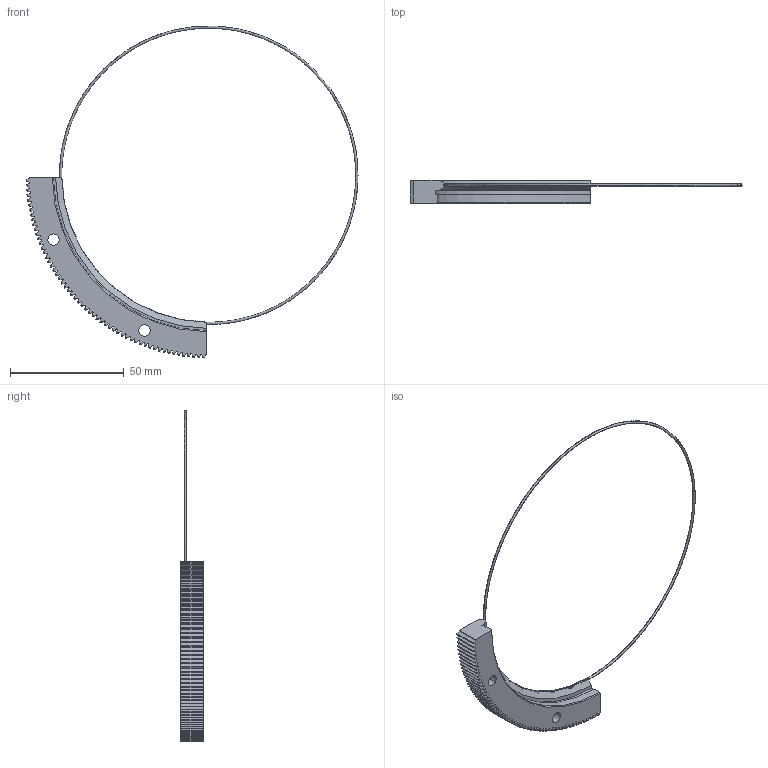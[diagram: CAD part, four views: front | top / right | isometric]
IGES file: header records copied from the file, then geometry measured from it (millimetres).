
Start section: 3D InterOp IGES (v. 2019 1.0.2), Spatial Corp. Copyright (c) 1999-2017.
Global section: file name: RIV 161 R90 P.igs; native system: Spatial Corp.; preprocessor: 3D InterOp GENERIC/IGES 3.0; author: Noname; organization: Noname; date: 20220719.140136; units: millimetre
Bounding box: 146.21 x 10 x 146.2 mm (x, y, z)
Surface area: 9689.8 mm2 (no closed solid volume)
Topology: 0 solids, 0 shells, 361 faces, 2146 edges, 2144 vertices
Faces by surface type: extrusion 234, revolution 127
